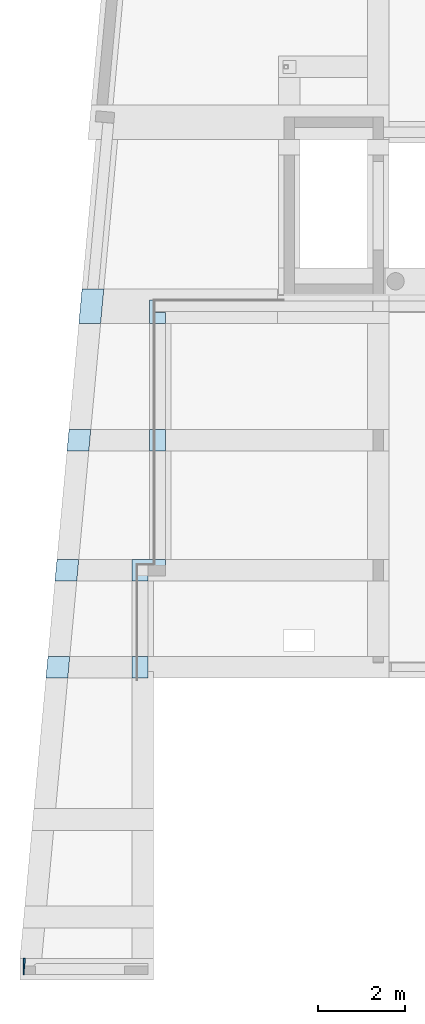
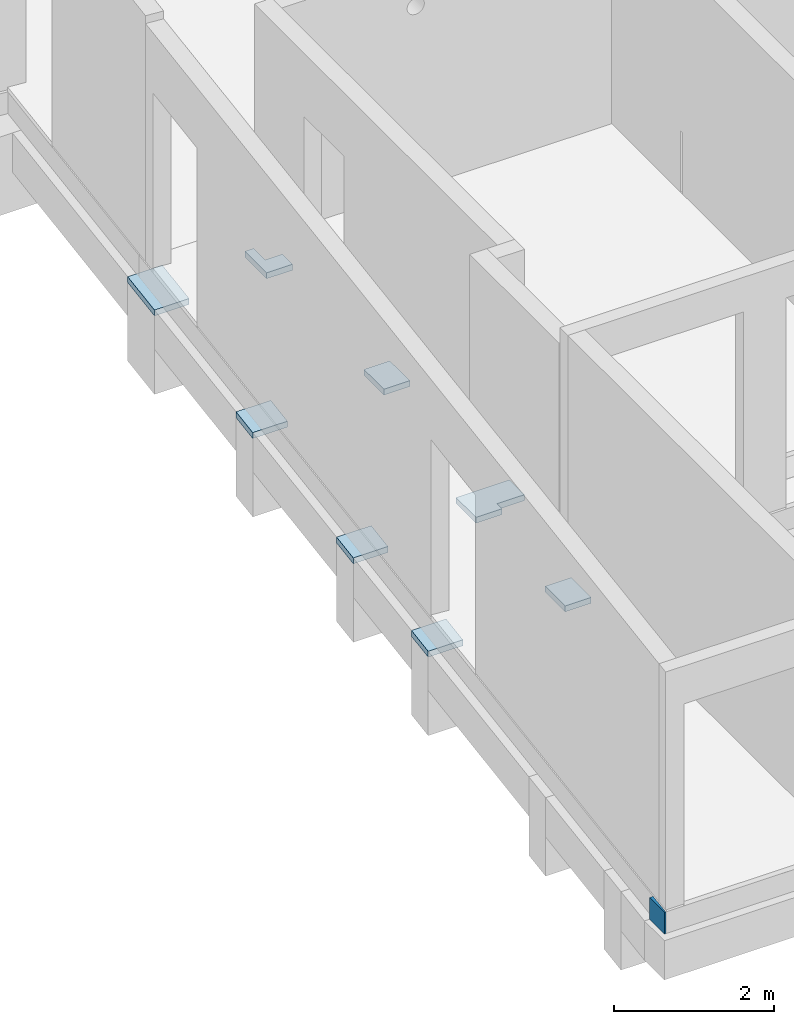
# One storey, part 35 of 60: 9 slabs.
"""IFC2X3 building model written with IfcOpenShell, lengths in millimetres."""

from ifc_helpers import new_model, entity, si_unit, converted_unit, derived_unit, direction, frame, frame_2d, origin, place, context, subcontext, project, spatial, polyline, rectangle, outline, extrude, material, layer, layer_set, layer_usage, element, save


model = new_model("IFC2X3")

# Units and contexts
model_context = context("Model", 3, precision=0.01, world=origin(), true_north=direction((6.12303176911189e-17, 1.0)))
body_context = subcontext(model_context, "Body", "Model", "MODEL_VIEW")
ifc_project = project(units=[si_unit("LENGTHUNIT", "METRE", prefix="MILLI"), si_unit("AREAUNIT", "SQUARE_METRE"), si_unit("VOLUMEUNIT", "CUBIC_METRE"), converted_unit("PLANEANGLEUNIT", "DEGREE", entity("IfcRatioMeasure", 0.0174532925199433), si_unit("PLANEANGLEUNIT", "RADIAN"), dimensions=[0, 0, 0, 0, 0, 0, 0]), si_unit("MASSUNIT", "GRAM", prefix="KILO"), derived_unit("MASSDENSITYUNIT", [(si_unit("MASSUNIT", "GRAM", prefix="KILO"), 1), (si_unit("LENGTHUNIT", "METRE"), -3)]), si_unit("TIMEUNIT", "SECOND"), si_unit("FREQUENCYUNIT", "HERTZ"), si_unit("THERMODYNAMICTEMPERATUREUNIT", "DEGREE_CELSIUS"), derived_unit("THERMALTRANSMITTANCEUNIT", [(si_unit("MASSUNIT", "GRAM", prefix="KILO"), 1), (si_unit("THERMODYNAMICTEMPERATUREUNIT", "KELVIN"), -1), (si_unit("TIMEUNIT", "SECOND"), -3)]), derived_unit("VOLUMETRICFLOWRATEUNIT", [(si_unit("LENGTHUNIT", "METRE"), 3), (si_unit("TIMEUNIT", "SECOND"), -1)]), si_unit("ELECTRICCURRENTUNIT", "AMPERE"), si_unit("ELECTRICVOLTAGEUNIT", "VOLT"), si_unit("POWERUNIT", "WATT"), si_unit("FORCEUNIT", "NEWTON", prefix="KILO"), si_unit("ILLUMINANCEUNIT", "LUX"), si_unit("LUMINOUSFLUXUNIT", "LUMEN"), si_unit("LUMINOUSINTENSITYUNIT", "CANDELA"), derived_unit("USERDEFINED", [(si_unit("MASSUNIT", "GRAM", prefix="KILO"), -1), (si_unit("LENGTHUNIT", "METRE"), -2), (si_unit("TIMEUNIT", "SECOND"), 3), (si_unit("LUMINOUSFLUXUNIT", "LUMEN"), 1)]), derived_unit("LINEARVELOCITYUNIT", [(si_unit("LENGTHUNIT", "METRE"), 1), (si_unit("TIMEUNIT", "SECOND"), -1)]), si_unit("PRESSUREUNIT", "PASCAL"), derived_unit("USERDEFINED", [(si_unit("LENGTHUNIT", "METRE"), -2), (si_unit("MASSUNIT", "GRAM", prefix="KILO"), 1), (si_unit("TIMEUNIT", "SECOND"), -2)])], contexts=[model_context])

# Site, building, storey
site_placement = place(None, origin())
site = spatial("IfcSite", under=ifc_project, at=site_placement, Name="Default", CompositionType="ELEMENT")
building_placement = place(site_placement, origin())
building = spatial("IfcBuilding", under=site, at=building_placement, Name="niet gebruiken", CompositionType="ELEMENT")
storey_placement = place(building_placement, origin())
storey = spatial("IfcBuildingStorey", under=building, at=storey_placement, Name="00 begane grond", CompositionType="ELEMENT", Elevation=0.0)

# Slabs
ifc_material = material(Name="NLRS_f2_beton ihwg")
ifc_layer_1 = layer(ifc_material, 332.0)
ifc_layer_set_1 = layer_set([ifc_layer_1], Name="Floor:NLRS_23.21_FL_beton ihwg d=332_gen")
ifc_layer_usage_1 = layer_usage(ifc_layer_set_1, "AXIS3", "POSITIVE", 0.0)
slab_1_placement = place(storey_placement, origin())
element("IfcSlab", 1, at=slab_1_placement, inside=storey, material=ifc_layer_usage_1, Name="Floor:NLRS_23.21_FL_beton ihwg d=332_gen", ObjectType="Floor:NLRS_23.21_FL_beton ihwg d=332_gen", PredefinedType="FLOOR", context=body_context, shape_type="SweptSolid", body=[
    extrude(outline(polyline([(-187.499999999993, -17.2760187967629), (187.499999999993, -17.2760187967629), (187.499999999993, 33.8263523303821), (-187.499999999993, 0.725685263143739), (-187.499999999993, -17.2760187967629)])), frame((-63.2943101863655, -6592.5, -70.0), z_axis=(0.0, 0.0, -1.0), x_axis=(0.0, 1.0, 0.0)), (0.0, 0.0, 1.0), 332.0),
])
ifc_layer_2 = layer(ifc_material, 90.0)
ifc_layer_set_2 = layer_set([ifc_layer_2], Name="Floor:NLRS_23.21_FL_beton ihwg d=90_gen")
ifc_layer_usage_2 = layer_usage(ifc_layer_set_2, "AXIS3", "POSITIVE", 0.0)
slab_2_placement = place(storey_placement, origin())
element("IfcSlab", 2, at=slab_2_placement, inside=storey, material=ifc_layer_usage_2, Name="Floor:NLRS_23.21_FL_beton ihwg d=90_gen", ObjectType="Floor:NLRS_23.21_FL_beton ihwg d=90_gen", PredefinedType="FLOOR", context=body_context, shape_type="SweptSolid", body=[
    extrude(outline(polyline([(-227.898138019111, -250.0), (274.245329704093, -250.0), (227.898138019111, 250.0), (-274.245329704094, 250.0), (-227.898138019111, -250.0)])), frame((717.583749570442, 300.0, -402.0), z_axis=(0.0, 0.0, -1.0), x_axis=(-1.0, 0.0, 0.0)), (0.0, 0.0, 1.0), 90.0),
])
ifc_layer_usage_3 = layer_usage(ifc_layer_set_2, "AXIS3", "POSITIVE", 0.0)
slab_3_placement = place(storey_placement, origin())
element("IfcSlab", 3, at=slab_3_placement, inside=storey, material=ifc_layer_usage_3, Name="Floor:NLRS_23.21_FL_beton ihwg d=90_gen", ObjectType="Floor:NLRS_23.21_FL_beton ihwg d=90_gen", PredefinedType="FLOOR", context=body_context, shape_type="SweptSolid", body=[
    extrude(outline(polyline([(-227.898138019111, -250.0), (274.245329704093, -250.0), (227.898138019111, 250.0), (-274.245329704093, 250.0), (-227.898138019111, -250.0)])), frame((924.755696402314, 2535.0, -402.0), z_axis=(0.0, 0.0, -1.0), x_axis=(-1.0, 0.0, 0.0)), (0.0, 0.0, 1.0), 90.0),
])
ifc_layer_usage_4 = layer_usage(ifc_layer_set_2, "AXIS3", "POSITIVE", 0.0)
slab_4_placement = place(storey_placement, frame((1200.74422638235, 8221.0, -492.0)))
element("IfcSlab", 4, at=slab_4_placement, inside=storey, material=ifc_layer_usage_4, Name="Floor:NLRS_23.21_FL_beton ihwg d=90_gen", ObjectType="Floor:NLRS_23.21_FL_beton ihwg d=90_gen", PredefinedType="FLOOR", context=body_context, shape_type="SweptSolid", body=[
    extrude(outline(polyline([(-999.627886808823, -400.0), (-624.627886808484, -400.0), (-624.627886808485, 145.0), (-749.627886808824, 145.0), (-749.627886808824, -145.0), (-999.627886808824, -145.0), (-999.627886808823, -400.0)])), frame((999.627886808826, 400.0, 90.0), z_axis=(0.0, 0.0, -1.0), x_axis=(-1.0, 0.0, 0.0)), (0.0, 0.0, 1.0), 90.0),
])
slab_5_placement = place(storey_placement, frame((1200.74422638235, 8221.0, -492.0)))
element("IfcSlab", 5, at=slab_5_placement, inside=storey, material=ifc_layer_usage_4, Name="Floor:NLRS_23.21_FL_beton ihwg d=90_gen:2", ObjectType="Floor:NLRS_23.21_FL_beton ihwg d=90_gen", PredefinedType="FLOOR", context=body_context, shape_type="SweptSolid", body=[
    extrude(outline(polyline([(999.627886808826, -400.0), (925.472380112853, 400.0), (423.328912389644, 400.0), (497.484419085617, -400.0), (999.627886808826, -400.0)])), frame((999.627886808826, 400.0, 90.0), z_axis=(0.0, 0.0, -1.0), x_axis=(-1.0, 0.0, 0.0)), (0.0, 0.0, 1.0), 90.0),
])
ifc_layer_usage_5 = layer_usage(ifc_layer_set_2, "AXIS3", "POSITIVE", 0.0)
slab_6_placement = place(storey_placement, origin())
element("IfcSlab", 6, at=slab_6_placement, inside=storey, material=ifc_layer_usage_5, Name="Floor:NLRS_23.21_FL_beton ihwg d=90_gen", ObjectType="Floor:NLRS_23.21_FL_beton ihwg d=90_gen", PredefinedType="FLOOR", context=body_context, shape_type="SweptSolid", body=[
    extrude(outline(polyline([(-227.898138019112, -250.0), (274.245329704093, -250.0), (227.898138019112, 250.0), (-274.245329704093, 250.0), (-227.898138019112, -250.0)])), frame((1202.83884651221, 5535.0, -402.0), z_axis=(0.0, 0.0, -1.0), x_axis=(-1.0, 0.0, 0.0)), (0.0, 0.0, 1.0), 90.0),
])
ifc_layer_usage_6 = layer_usage(ifc_layer_set_2, "AXIS3", "POSITIVE", 0.0)
slab_7_placement = place(storey_placement, frame((2425.0, 50.0, -492.0)))
element("IfcSlab", 7, at=slab_7_placement, inside=storey, material=ifc_layer_usage_6, Name="Floor:NLRS_23.21_FL_beton ihwg d=90_gen", ObjectType="Floor:NLRS_23.21_FL_beton ihwg d=90_gen", PredefinedType="FLOOR", context=body_context, shape_type="SweptSolid", body=[
    extrude(rectangle(XDim=500.000000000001, YDim=375.000000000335, at=frame_2d((-200.0, 2617.49999999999), x_axis=(0.0, -1.0))), frame((387.500000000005, 2867.49999999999, 90.0), z_axis=(0.0, 0.0, -1.0), x_axis=(-1.0, 0.0, 0.0)), (0.0, 0.0, 1.0), 90.0),
])
slab_8_placement = place(storey_placement, frame((2425.0, 50.0, -492.0)))
element("IfcSlab", 8, at=slab_8_placement, inside=storey, material=ifc_layer_usage_6, Name="Floor:NLRS_23.21_FL_beton ihwg d=90_gen:2", ObjectType="Floor:NLRS_23.21_FL_beton ihwg d=90_gen", PredefinedType="FLOOR", context=body_context, shape_type="SweptSolid", body=[
    extrude(outline(polyline([(387.500000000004, -132.500000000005), (-387.49999999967, -132.500000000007), (-387.499999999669, -507.500000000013), (12.4999999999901, -507.500000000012), (12.4999999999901, -632.500000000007), (387.500000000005, -632.500000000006), (387.500000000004, -132.500000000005)])), frame((387.500000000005, 2867.49999999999, 90.0), z_axis=(0.0, 0.0, -1.0), x_axis=(-1.0, 0.0, 0.0)), (0.0, 0.0, 1.0), 90.0),
])
slab_9_placement = place(storey_placement, frame((2425.0, 50.0, -492.0)))
element("IfcSlab", 9, at=slab_9_placement, inside=storey, material=ifc_layer_usage_6, Name="Floor:NLRS_23.21_FL_beton ihwg d=90_gen:3", ObjectType="Floor:NLRS_23.21_FL_beton ihwg d=90_gen", PredefinedType="FLOOR", context=body_context, shape_type="SweptSolid", body=[
    extrude(rectangle(XDim=374.999999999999, YDim=500.0, at=frame_2d((200.0, -2617.49999999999), x_axis=(1.0, 0.0))), frame((387.500000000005, 2867.49999999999, 90.0), z_axis=(0.0, 0.0, -1.0), x_axis=(-1.0, 0.0, 0.0)), (0.0, 0.0, 1.0), 90.0),
])

save(model, "model.ifc")
